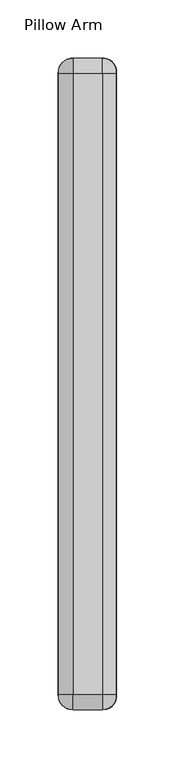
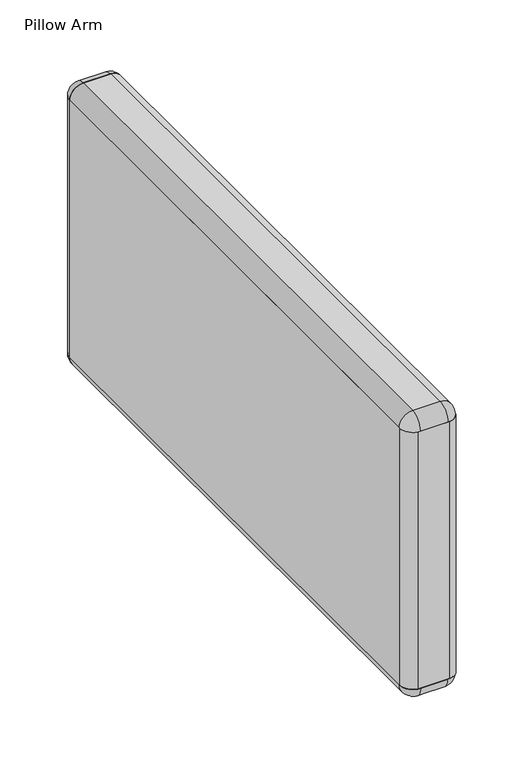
"""IFC4 building model written with IfcOpenShell, lengths in millimetres: furniture geometry, Steelcase Coalesse - Evaneau - Seating - Arm Pillow and Bolster : Pillow Arm."""

from ifc_helpers import new_model, si_unit, point, frame, frame_2d, origin, place, context, project, spatial, polyline, circle_curve, ellipse_curve, trimmed, segment, composite_curve, outline, extrude, source, transform, mapped, element, save
from ifc_brep_helpers import plane_surface, cylinder_surface, revolved_surface, advanced_brep


def pillow_arm_90742106(model_context):
    return source(origin(), model_context, "Body", "SolidModel", [
        extrude(outline(polyline([(-540.7976726, 756.0661938), (-540.7976726, 222.6661575), (-590.82936, 222.6661575), (-590.82936, 756.0661938), (-540.7976726, 756.0661938)])), frame((0.0, 0.0, 443.7062504), z_axis=(0.0, 0.0, 1.0), x_axis=(1.0, 0.0, 0.0)), (0.0, 0.0, 1.0), 253.9999996),
        advanced_brep(
        [(-552.72936, 768.7661942, 697.70625), (-540.7976726, 756.0661938, 697.70625), (-590.8295541, 756.0661938, 697.70625), (-578.1295538, 768.7661942, 697.70625), (-552.72936, 756.0661938, 710.4062504), (-578.1295538, 756.0661938, 710.4062504)],
        [
            (0, 1, circle_curve(frame((-552.72936, 756.8112665, 697.70625), z_axis=(0.0, 0.0, -1.0), x_axis=(0.0, 1.0, 0.0)), 11.9549277)),
            (1, 2),
            (2, 3, circle_curve(frame((-578.1295538, 756.0661938, 697.70625), z_axis=(0.0, 0.0, -1.0), x_axis=(0.0, 1.0, 0.0)), 12.7000004)),
            (3, 0),
            (4, 5),
            (5, 2, circle_curve(frame((-578.1295538, 756.0661938, 697.70625), z_axis=(0.0, -1.0, 0.0), x_axis=(0.0, 0.0, 1.0)), 12.7000004)),
            (1, 4, circle_curve(frame((-552.72936, 756.0661938, 698.4513227), z_axis=(0.0, -1.0, 0.0), x_axis=(0.0, 0.0, 1.0)), 11.9549277)),
            (0, 4, circle_curve(frame((-552.72936, 756.0661938, 697.70625), z_axis=(1.0, 0.0, 0.0), x_axis=(0.0, 1.0, 0.0)), 12.7000004)),
            (5, 3, circle_curve(frame((-578.1295538, 756.0661938, 697.70625), z_axis=(-1.0, 0.0, 0.0), x_axis=(0.0, 1.0, 0.0)), 12.7000004)),
        ],
        [
            plane_surface(frame((-590.8295541, 756.0661938, 697.70625), z_axis=(0.0, 0.0, -1.0), x_axis=(0.0, 1.0, 0.0))),
            plane_surface(frame((-590.8295541, 756.0661938, 697.70625), z_axis=(0.0, -1.0, 0.0), x_axis=(0.0, 0.0, 1.0))),
            revolved_surface(trimmed(ellipse_curve(frame((-552.72936, 756.8112665, 697.70625), z_axis=(0.0, 0.0, -1.0), x_axis=(0.0, 1.0, 0.0)), 11.9549277, 11.9549277), [point((-552.72936, 768.7661942, 697.70625))], [point((-540.7976726, 756.0661938, 697.70625))], True, "CARTESIAN"), (-590.8295541, 756.0661938, 697.70625), (1.0, 0.0, 0.0)),
            revolved_surface(trimmed(ellipse_curve(frame((-578.1295538, 756.0661938, 697.70625), z_axis=(0.0, 0.0, -1.0), x_axis=(0.0, 1.0, 0.0)), 12.7000004, 12.7000004), [point((-590.8295541, 756.0661938, 697.70625))], [point((-578.1295538, 768.7661942, 697.70625))], True, "CARTESIAN"), (-590.8295541, 756.0661938, 697.70625), (1.0, 0.0, 0.0)),
            cylinder_surface(frame((-590.8295541, 756.0661938, 697.70625), z_axis=(1.0, 0.0, 0.0), x_axis=(0.0, 1.0, 0.0)), 12.7000004),
        ],
        [
            (0, [[1, 2, 3, 4]]),
            (1, [[5, 6, -2, 7]]),
            (2, [[-1, 8, -7]]),
            (3, [[9, -3, -6]]),
            (4, [[-8, -4, -9, -5]]),
        ],
    ),
        advanced_brep(
        [(-552.72936, 768.7661942, 443.7062504), (-578.1295538, 768.7661942, 443.7062504), (-590.8295541, 756.0661938, 443.7062504), (-540.7976726, 756.0661938, 443.7062504), (-552.72936, 756.0661938, 431.00625), (-578.1295538, 756.0661938, 431.00625)],
        [
            (0, 1),
            (1, 2, circle_curve(frame((-578.1295538, 756.0661938, 443.7062504), z_axis=(0.0, 0.0, 1.0), x_axis=(0.0, 1.0, 0.0)), 12.7000004)),
            (2, 3),
            (3, 0, circle_curve(frame((-552.72936, 756.8112665, 443.7062504), z_axis=(0.0, 0.0, 1.0), x_axis=(0.0, 1.0, 0.0)), 11.9549277)),
            (4, 3, circle_curve(frame((-552.72936, 756.0661938, 442.9611777), z_axis=(0.0, -1.0, 0.0), x_axis=(0.0, 0.0, -1.0)), 11.9549277)),
            (2, 5, circle_curve(frame((-578.1295538, 756.0661938, 443.7062504), z_axis=(0.0, -1.0, 0.0), x_axis=(0.0, 0.0, -1.0)), 12.7000004)),
            (5, 4),
            (5, 1, circle_curve(frame((-578.1295538, 756.0661938, 443.7062504), z_axis=(1.0, 0.0, 0.0), x_axis=(0.0, 1.0, 0.0)), 12.7000004)),
            (0, 4, circle_curve(frame((-552.72936, 756.0661938, 443.7062504), z_axis=(-1.0, 0.0, 0.0), x_axis=(0.0, 1.0, 0.0)), 12.7000004)),
        ],
        [
            plane_surface(frame((-590.8295541, 756.0661938, 443.7062504), z_axis=(0.0, 0.0, 1.0), x_axis=(0.0, 1.0, 0.0))),
            plane_surface(frame((-590.8295541, 756.0661938, 443.7062504), z_axis=(0.0, -1.0, 0.0), x_axis=(0.0, 0.0, -1.0))),
            cylinder_surface(frame((-590.8295541, 756.0661938, 443.7062504), z_axis=(-1.0, 0.0, 0.0), x_axis=(0.0, 1.0, 0.0)), 12.7000004),
            revolved_surface(trimmed(ellipse_curve(frame((-578.1295538, 756.0661938, 443.7062504), z_axis=(0.0, 0.0, 1.0), x_axis=(0.0, 1.0, 0.0)), 12.7000004, 12.7000004), [point((-578.1295538, 768.7661942, 443.7062504))], [point((-590.8295541, 756.0661938, 443.7062504))], True, "CARTESIAN"), (-590.8295541, 756.0661938, 443.7062504), (-1.0, 0.0, 0.0)),
            revolved_surface(trimmed(ellipse_curve(frame((-552.72936, 756.8112665, 443.7062504), z_axis=(0.0, 0.0, 1.0), x_axis=(0.0, 1.0, 0.0)), 11.9549277, 11.9549277), [point((-540.7976726, 756.0661938, 443.7062504))], [point((-552.72936, 768.7661942, 443.7062504))], True, "CARTESIAN"), (-590.8295541, 756.0661938, 443.7062504), (-1.0, 0.0, 0.0)),
        ],
        [
            (0, [[1, 2, 3, 4]]),
            (1, [[5, -3, 6, 7]]),
            (2, [[8, -1, 9, -7]]),
            (3, [[-2, -8, -6]]),
            (4, [[-9, -4, -5]]),
        ],
    ),
        advanced_brep(
        [(-552.72936, 209.9661571, 697.70625), (-578.1295538, 209.9661571, 697.70625), (-590.8295541, 222.6661575, 697.70625), (-540.7976726, 222.6661575, 697.70625), (-552.72936, 222.6661575, 710.4062504), (-578.1295538, 222.6661575, 710.4062504)],
        [
            (0, 1),
            (1, 2, circle_curve(frame((-578.1295538, 222.6661575, 697.70625), z_axis=(0.0, 0.0, -1.0), x_axis=(0.0, -1.0, 0.0)), 12.7000004)),
            (2, 3),
            (3, 0, circle_curve(frame((-552.72936, 221.9210848, 697.70625), z_axis=(0.0, 0.0, -1.0), x_axis=(0.0, -1.0, 0.0)), 11.9549277)),
            (4, 3, circle_curve(frame((-552.72936, 222.6661575, 698.4513227), z_axis=(0.0, 1.0, 0.0), x_axis=(0.0, 0.0, 1.0)), 11.9549277)),
            (2, 5, circle_curve(frame((-578.1295538, 222.6661575, 697.70625), z_axis=(0.0, 1.0, 0.0), x_axis=(0.0, 0.0, 1.0)), 12.7000004)),
            (5, 4),
            (5, 1, circle_curve(frame((-578.1295538, 222.6661575, 697.70625), z_axis=(1.0, 0.0, 0.0), x_axis=(0.0, -1.0, 0.0)), 12.7000004)),
            (0, 4, circle_curve(frame((-552.72936, 222.6661575, 697.70625), z_axis=(-1.0, 0.0, 0.0), x_axis=(0.0, -1.0, 0.0)), 12.7000004)),
        ],
        [
            plane_surface(frame((-590.8295541, 222.6661575, 697.70625), z_axis=(0.0, 0.0, -1.0), x_axis=(0.0, -1.0, 0.0))),
            plane_surface(frame((-590.8295541, 222.6661575, 697.70625), z_axis=(0.0, 1.0, 0.0), x_axis=(0.0, 0.0, 1.0))),
            cylinder_surface(frame((-590.8295541, 222.6661575, 697.70625), z_axis=(-1.0, 0.0, 0.0), x_axis=(0.0, -1.0, 0.0)), 12.7000004),
            revolved_surface(trimmed(ellipse_curve(frame((-578.1295538, 222.6661575, 697.70625), z_axis=(0.0, 0.0, -1.0), x_axis=(0.0, -1.0, 0.0)), 12.7000004, 12.7000004), [point((-578.1295538, 209.9661571, 697.70625))], [point((-590.8295541, 222.6661575, 697.70625))], True, "CARTESIAN"), (-590.8295541, 222.6661575, 697.70625), (-1.0, 0.0, 0.0)),
            revolved_surface(trimmed(ellipse_curve(frame((-552.72936, 221.9210848, 697.70625), z_axis=(0.0, 0.0, -1.0), x_axis=(0.0, -1.0, 0.0)), 11.9549277, 11.9549277), [point((-540.7976726, 222.6661575, 697.70625))], [point((-552.72936, 209.9661571, 697.70625))], True, "CARTESIAN"), (-590.8295541, 222.6661575, 697.70625), (-1.0, 0.0, 0.0)),
        ],
        [
            (0, [[1, 2, 3, 4]]),
            (1, [[5, -3, 6, 7]]),
            (2, [[8, -1, 9, -7]]),
            (3, [[-2, -8, -6]]),
            (4, [[-9, -4, -5]]),
        ],
    ),
        extrude(outline(composite_curve([segment(trimmed(circle_curve(frame_2d((-578.1287177, 756.0655151)), 12.7008365), [point((-590.8295541, 756.0661938))], [point((-580.1160604, 768.6099049))], False, "CARTESIAN"), True, "CONTINUOUS"), segment(polyline([(-580.1160604, 768.6099049), (-550.8627667, 768.6099049)]), True, "CONTINUOUS"), segment(trimmed(circle_curve(frame_2d((-551.564138, 757.717175)), 10.9152869), [point((-550.8627667, 768.6099049))], [point((-540.7744323, 756.0661938))], False, "CARTESIAN"), True, "CONTINUOUS"), segment(polyline([(-540.7744323, 756.0661938), (-590.8295541, 756.0661938)]), True, "CONTINUOUS")], self_intersect=False)), frame((0.0, 0.0, 443.7062504), z_axis=(0.0, 0.0, 1.0), x_axis=(1.0, 0.0, 0.0)), (0.0, 0.0, 1.0), 253.9999996),
        extrude(outline(composite_curve([segment(polyline([(697.70625, -590.8295598), (697.70625, -540.7976726)]), True, "CONTINUOUS"), segment(trimmed(circle_curve(frame_2d((698.451328, -552.72936)), 11.954928), [point((697.70625, -540.7976726))], [point((710.4062561, -552.72936))], False, "CARTESIAN"), True, "CONTINUOUS"), segment(polyline([(710.4062561, -552.72936), (710.4062561, -578.1295538)]), True, "CONTINUOUS"), segment(trimmed(circle_curve(frame_2d((697.70625, -578.1295538)), 12.7000061), [point((710.4062561, -578.1295538))], [point((697.70625, -590.8295598))], False, "CARTESIAN"), True, "CONTINUOUS")], self_intersect=False)), frame((0.0, 222.6661575, 0.0), z_axis=(0.0, 1.0, 0.0), x_axis=(0.0, 0.0, 1.0)), (0.0, 0.0, 1.0), 533.4000363),
        advanced_brep(
        [(-552.72936, 209.9661571, 443.7062504), (-540.7976726, 222.6661575, 443.7062504), (-590.8295541, 222.6661575, 443.7062504), (-578.1295538, 209.9661571, 443.7062504), (-552.72936, 222.6661575, 431.00625), (-578.1295538, 222.6661575, 431.00625)],
        [
            (0, 1, circle_curve(frame((-552.72936, 221.9210848, 443.7062504), z_axis=(0.0, 0.0, 1.0), x_axis=(0.0, -1.0, 0.0)), 11.9549277)),
            (1, 2),
            (2, 3, circle_curve(frame((-578.1295538, 222.6661575, 443.7062504), z_axis=(0.0, 0.0, 1.0), x_axis=(0.0, -1.0, 0.0)), 12.7000004)),
            (3, 0),
            (4, 5),
            (5, 2, circle_curve(frame((-578.1295538, 222.6661575, 443.7062504), z_axis=(0.0, 1.0, 0.0), x_axis=(0.0, 0.0, -1.0)), 12.7000004)),
            (1, 4, circle_curve(frame((-552.72936, 222.6661575, 442.9611777), z_axis=(0.0, 1.0, 0.0), x_axis=(0.0, 0.0, -1.0)), 11.9549277)),
            (0, 4, circle_curve(frame((-552.72936, 222.6661575, 443.7062504), z_axis=(1.0, 0.0, 0.0), x_axis=(0.0, -1.0, 0.0)), 12.7000004)),
            (5, 3, circle_curve(frame((-578.1295538, 222.6661575, 443.7062504), z_axis=(-1.0, 0.0, 0.0), x_axis=(0.0, -1.0, 0.0)), 12.7000004)),
        ],
        [
            plane_surface(frame((-590.8295541, 222.6661575, 443.7062504), z_axis=(0.0, 0.0, 1.0), x_axis=(0.0, -1.0, 0.0))),
            plane_surface(frame((-590.8295541, 222.6661575, 443.7062504), z_axis=(0.0, 1.0, 0.0), x_axis=(0.0, 0.0, -1.0))),
            revolved_surface(trimmed(ellipse_curve(frame((-552.72936, 221.9210848, 443.7062504), z_axis=(0.0, 0.0, 1.0), x_axis=(0.0, -1.0, 0.0)), 11.9549277, 11.9549277), [point((-552.72936, 209.9661571, 443.7062504))], [point((-540.7976726, 222.6661575, 443.7062504))], True, "CARTESIAN"), (-590.8295541, 222.6661575, 443.7062504), (1.0, 0.0, 0.0)),
            revolved_surface(trimmed(ellipse_curve(frame((-578.1295538, 222.6661575, 443.7062504), z_axis=(0.0, 0.0, 1.0), x_axis=(0.0, -1.0, 0.0)), 12.7000004, 12.7000004), [point((-590.8295541, 222.6661575, 443.7062504))], [point((-578.1295538, 209.9661571, 443.7062504))], True, "CARTESIAN"), (-590.8295541, 222.6661575, 443.7062504), (1.0, 0.0, 0.0)),
            cylinder_surface(frame((-590.8295541, 222.6661575, 443.7062504), z_axis=(1.0, 0.0, 0.0), x_axis=(0.0, -1.0, 0.0)), 12.7000004),
        ],
        [
            (0, [[1, 2, 3, 4]]),
            (1, [[5, 6, -2, 7]]),
            (2, [[-1, 8, -7]]),
            (3, [[9, -3, -6]]),
            (4, [[-8, -4, -9, -5]]),
        ],
    ),
        extrude(outline(composite_curve([segment(polyline([(-590.8295541, 222.6661575), (-540.7744323, 222.6661575)]), True, "CONTINUOUS"), segment(trimmed(circle_curve(frame_2d((-551.564138, 221.0151763)), 10.9152869), [point((-540.7744323, 222.6661575))], [point((-550.8627667, 210.1224464))], False, "CARTESIAN"), True, "CONTINUOUS"), segment(polyline([(-550.8627667, 210.1224464), (-580.1160604, 210.1224464)]), True, "CONTINUOUS"), segment(trimmed(circle_curve(frame_2d((-578.1287177, 222.6668362)), 12.7008365), [point((-580.1160604, 210.1224464))], [point((-590.8295541, 222.6661575))], False, "CARTESIAN"), True, "CONTINUOUS")], self_intersect=False)), frame((0.0, 0.0, 443.7062504), z_axis=(0.0, 0.0, 1.0), x_axis=(1.0, 0.0, 0.0)), (0.0, 0.0, 1.0), 253.9999996),
        extrude(outline(composite_curve([segment(polyline([(443.7062504, -540.7976726), (443.7062504, -590.8295541)]), True, "CONTINUOUS"), segment(trimmed(circle_curve(frame_2d((443.7062504, -578.1295538)), 12.7000004), [point((443.7062504, -590.8295541))], [point((431.00625, -578.1295538))], False, "CARTESIAN"), True, "CONTINUOUS"), segment(polyline([(431.00625, -578.1295538), (431.00625, -552.72936)]), True, "CONTINUOUS"), segment(trimmed(circle_curve(frame_2d((442.9611777, -552.72936)), 11.9549277), [point((431.00625, -552.72936))], [point((443.7062504, -540.7976726))], False, "CARTESIAN"), True, "CONTINUOUS")], self_intersect=False)), frame((0.0, 222.6661575, 0.0), z_axis=(0.0, 1.0, 0.0), x_axis=(0.0, 0.0, 1.0)), (0.0, 0.0, 1.0), 533.4000363),
        extrude(outline(polyline([(-540.7976726, 756.0661938), (-540.7976726, 222.6661575), (-590.82936, 222.6661575), (-590.82936, 756.0661938), (-540.7976726, 756.0661938)])), frame((0.0, 0.0, 443.7062504), z_axis=(0.0, 0.0, 1.0), x_axis=(1.0, 0.0, 0.0)), (0.0, 0.0, 1.0), 253.9999996),
    ])


if __name__ == "__main__":
    model = new_model("IFC4")
    model_context = context("Model", 3, world=origin())
    ifc_project = project(units=[si_unit("LENGTHUNIT", "METRE", prefix="MILLI")], contexts=[model_context])
    site = spatial("IfcSite", under=ifc_project)
    building = spatial("IfcBuilding", under=site)
    placement = place(None, origin())
    pillow_arm_shape = pillow_arm_90742106(model_context)
    element("IfcFurniture", 1, ObjectType="Steelcase Coalesse - Evaneau - Seating - Arm Pillow and Bolster : Pillow Arm", at=placement, inside=building, context=model_context, shape_type="MappedRepresentation", body=[
        mapped(pillow_arm_shape, transform((0.0, 0.0, 0.0), x_axis=(1.0, 0.0, 0.0), y_axis=(0.0, 1.0, 0.0), z_axis=(0.0, 0.0, 1.0))),
    ])
    save(model, "model.ifc")
